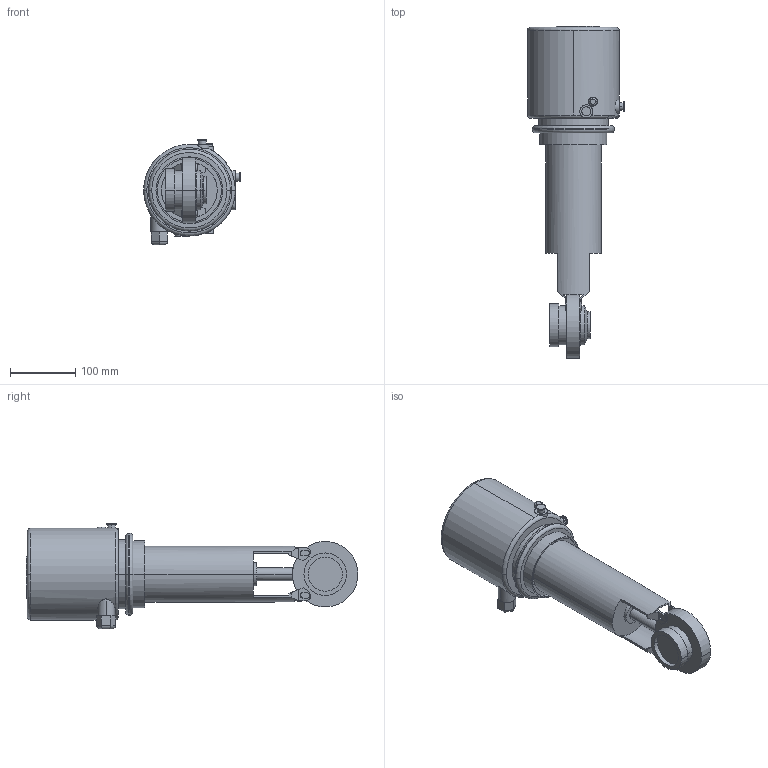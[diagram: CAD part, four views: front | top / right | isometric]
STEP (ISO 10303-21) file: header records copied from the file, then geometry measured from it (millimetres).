
FILE_DESCRIPTION(('Creo Elements/Direct Modeling STEP Export'),'2;1');
FILE_NAME('SV1-40-FZ-1S2G-CU4.stp','2014-07-07T14:34:08',(''),(''),'Creo Elements/Direct Modeling STEP processor for AP214 (Solid Model)','Creo Elements/Direct Modeling 17.0D 15-Jul-2011 (C) Parametric Technology GmbH','');
FILE_SCHEMA(('AUTOMOTIVE_DESIGN { 1 0 10303 214 1 1 1 1 }'));
Length unit declared in the file: millimetre
Products named in the file (3): SV1-40-FZ-1S2G; CU4-T-SPX_logo; SV1-40-FZ-1S2G-CU4
Assembly tree (2 placements, depth 2):
  SV1-40-FZ-1S2G-CU4
    CU4-T-SPX_logo
    SV1-40-FZ-1S2G
Bounding box: 148 x 506.93 x 161.4 mm (x, y, z)
Volume: 3763838.8 mm3; surface area: 224088.1 mm2
Topology: 2 solids, 2 shells, 253 faces, 666 edges, 428 vertices
Faces by surface type: plane 116, cylinder 88, extrusion 33, torus 14, cone 2
Entity records: 11649 total; most frequent: CARTESIAN_POINT 5694, ORIENTED_EDGE 1332, DIRECTION 1070, EDGE_CURVE 666, VERTEX_POINT 428, AXIS2_PLACEMENT_3D 369, VECTOR 332, LINE 299
